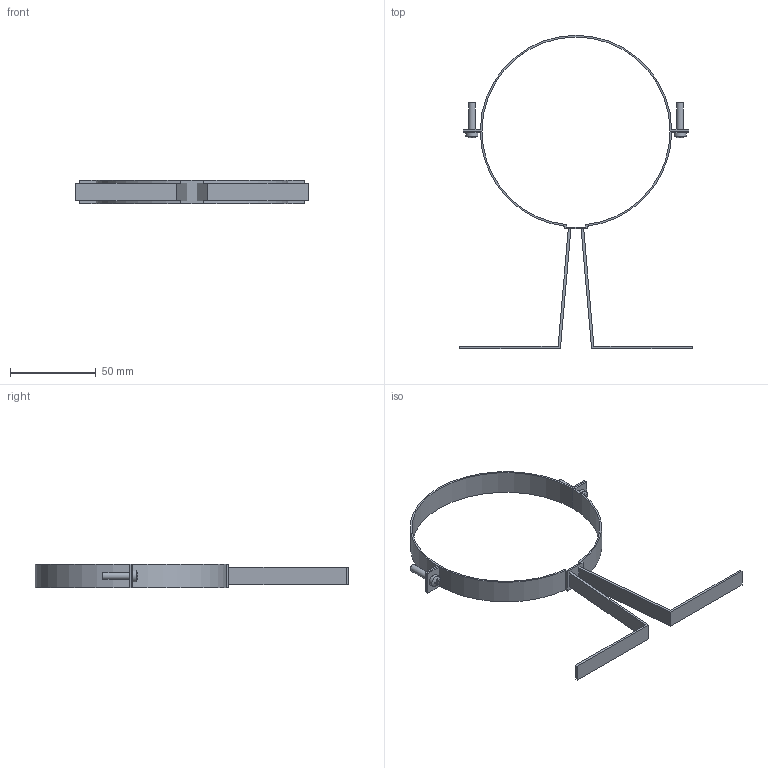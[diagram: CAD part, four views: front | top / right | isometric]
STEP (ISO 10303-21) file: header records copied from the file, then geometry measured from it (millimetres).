
FILE_DESCRIPTION( ( 'STEP AP214' ), '1' );
FILE_NAME( 'C:/Users/ilukic/Documents/ex/gebaudeentwasserung/pe/pipe bracket w_support/367856.stp', '2020-03-26T18:42:27', ( '' ), ( '' ), ' ', 'PARTsolutions', ' ' );
FILE_SCHEMA( ( 'AUTOMOTIVE_DESIGN { 1 0 10303 214 1 1 1 1 }' ) );
Length unit declared in the file: millimetre
Products named in the file (1): _367856
Bounding box: 136 x 183.23 x 14 mm (x, y, z)
Volume: 9870.8 mm3; surface area: 18141.3 mm2
Topology: 1 solids, 1 shells, 78 faces, 208 edges, 140 vertices
Faces by surface type: plane 64, cylinder 12, bspline 2
Full cylindrical faces by diameter (mm): 4 x4, 7 x2
Entity records: 3058 total; most frequent: CARTESIAN_POINT 577, ORIENTED_EDGE 384, DIRECTION 346, EDGE_CURVE 192, LINE 144, VECTOR 144, VERTEX_POINT 132, AXIS2_PLACEMENT_3D 101
